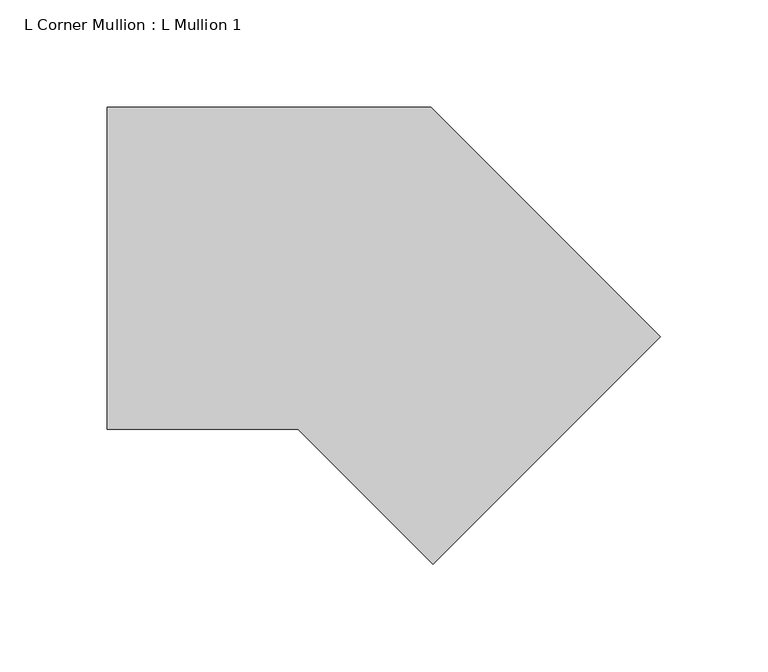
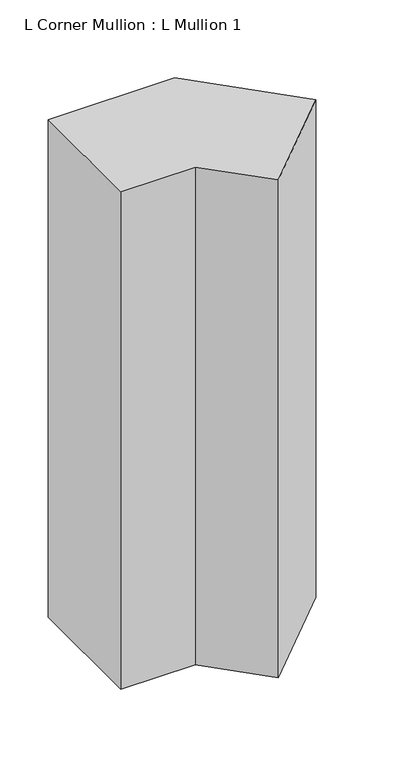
"""IFC4 building model written with IfcOpenShell, lengths in millimetres: member geometry, L Corner Mullion : L Mullion 1."""

from ifc_helpers import new_model, si_unit, frame, origin, place, context, project, spatial, polyline, outline, extrude, source, transform, mapped, element, save


def l_corner_mullion_l_mullion_1_c42eb2e1(model_context):
    return source(origin(), model_context, "Body", "SweptSolid", [
        extrude(outline(polyline([(20.636039, -164.8858223), (-42.2497834, -102.0), (-131.1837662, -102.0), (-131.1837662, 48.0), (19.882251, 48.0), (126.7020561, -58.8198052), (20.636039, -164.8858223)])), frame((0.0, 0.0, -628.2555545), z_axis=(0.0, 0.0, 1.0), x_axis=(1.0, 0.0, 0.0)), (0.0, 0.0, 1.0), 628.2555545),
    ])


if __name__ == "__main__":
    model = new_model("IFC4")
    model_context = context("Model", 3, world=origin())
    ifc_project = project(units=[si_unit("LENGTHUNIT", "METRE", prefix="MILLI")], contexts=[model_context])
    site = spatial("IfcSite", under=ifc_project)
    building = spatial("IfcBuilding", under=site)
    placement = place(None, origin())
    l_corner_mullion_l_mullion_1_shape = l_corner_mullion_l_mullion_1_c42eb2e1(model_context)
    element("IfcMember", 1, ObjectType="L Corner Mullion : L Mullion 1", at=placement, inside=building, context=model_context, shape_type="MappedRepresentation", body=[
        mapped(l_corner_mullion_l_mullion_1_shape, transform((0.0, 0.0, 0.0), x_axis=(1.0, 0.0, 0.0), y_axis=(0.0, 1.0, 0.0), z_axis=(0.0, 0.0, 1.0))),
    ])
    save(model, "model.ifc")
